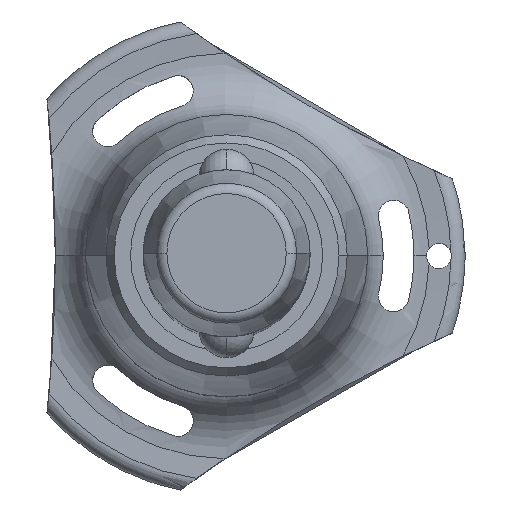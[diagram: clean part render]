
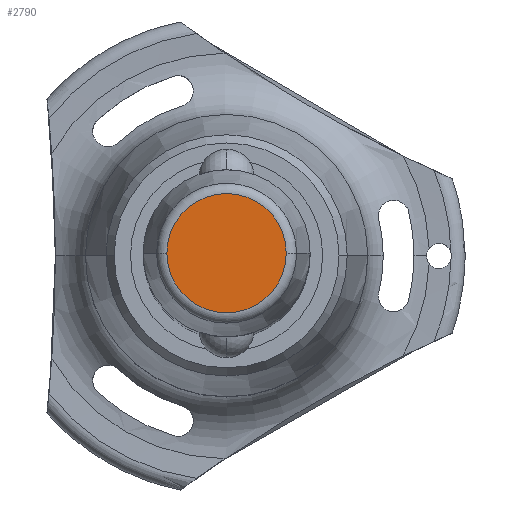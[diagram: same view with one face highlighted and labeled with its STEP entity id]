
A CAD part, top view. The second image highlights one B-rep face of the part: STEP entity #2790.
In plain terms, the highlighted planar face has unit normal (0, 0, 1).
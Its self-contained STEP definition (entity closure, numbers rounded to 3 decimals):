
#94 = EDGE_LOOP ( 'NONE', ( #1495, #794 ) ) ;
#418 = DIRECTION ( 'NONE',  ( 0., 0., 1. ) ) ;
#681 = CARTESIAN_POINT ( 'NONE',  ( 0., 0., 20.5 ) ) ;
#794 = ORIENTED_EDGE ( 'NONE', *, *, #1840, .T. ) ;
#796 = CARTESIAN_POINT ( 'NONE',  ( 7.144, 0., 20.5 ) ) ;
#831 = PLANE ( 'NONE',  #2698 ) ;
#860 = DIRECTION ( 'NONE',  ( 0., 0., 1. ) ) ;
#928 = AXIS2_PLACEMENT_3D ( 'NONE', #681, #1334, #1344 ) ;
#1063 = DIRECTION ( 'NONE',  ( 1., 0., 0. ) ) ;
#1334 = DIRECTION ( 'NONE',  ( 0., 0., 1. ) ) ;
#1344 = DIRECTION ( 'NONE',  ( 1., 0., 0. ) ) ;
#1438 = VERTEX_POINT ( 'NONE', #2095 ) ;
#1495 = ORIENTED_EDGE ( 'NONE', *, *, #2300, .T. ) ;
#1698 = CARTESIAN_POINT ( 'NONE',  ( 0., 0., 20.5 ) ) ;
#1840 = EDGE_CURVE ( 'NONE', #1438, #2134, #1861, .T. ) ;
#1861 = CIRCLE ( 'NONE', #928, 7.144 ) ;
#2049 = CIRCLE ( 'NONE', #2560, 7.144 ) ;
#2095 = CARTESIAN_POINT ( 'NONE',  ( -7.144, 0., 20.5 ) ) ;
#2134 = VERTEX_POINT ( 'NONE', #796 ) ;
#2203 = CARTESIAN_POINT ( 'NONE',  ( 0., 0., 20.5 ) ) ;
#2300 = EDGE_CURVE ( 'NONE', #2134, #1438, #2049, .T. ) ;
#2396 = DIRECTION ( 'NONE',  ( 1., 0., 0. ) ) ;
#2560 = AXIS2_PLACEMENT_3D ( 'NONE', #2203, #418, #2396 ) ;
#2698 = AXIS2_PLACEMENT_3D ( 'NONE', #1698, #860, #1063 ) ;
#2790 = ADVANCED_FACE ( 'NONE', ( #2819 ), #831, .T. ) ;
#2819 = FACE_OUTER_BOUND ( 'NONE', #94, .T. ) ;
